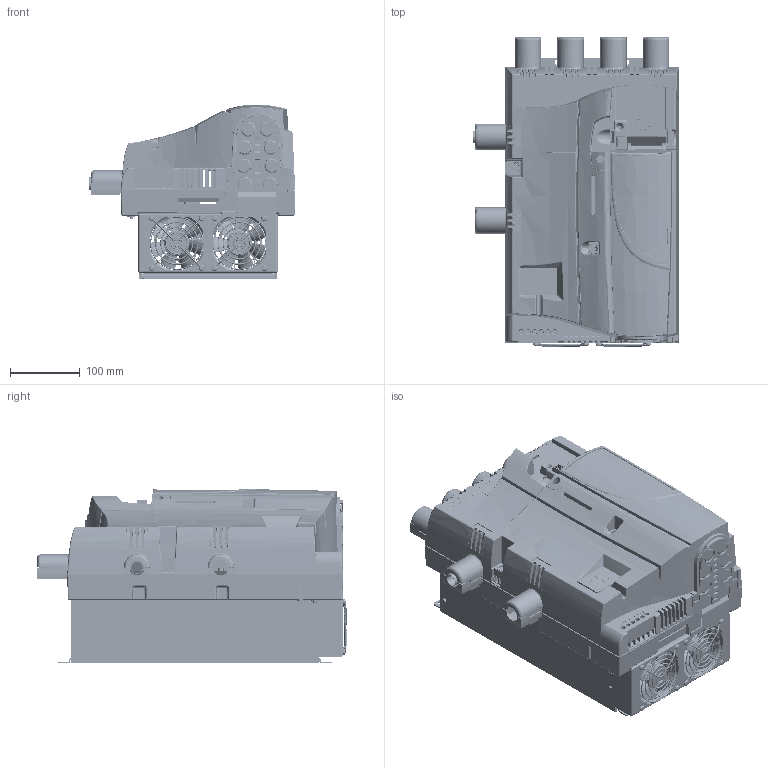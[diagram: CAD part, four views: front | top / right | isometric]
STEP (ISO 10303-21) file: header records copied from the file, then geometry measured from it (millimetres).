
FILE_DESCRIPTION((''),'2;1');
FILE_NAME('STEP_SW0001','2024-09-11T13:19:14',('kholpr01'),(''),'CREO PARAMETRIC BY PTC INC, 2018190','CREO PARAMETRIC BY PTC INC, 2018190','');
FILE_SCHEMA(('AUTOMOTIVE_DESIGN { 1 0 10303 214 1 1 1 1 }'));
Products named in the file (1): STEP_SW0001
Bounding box: 296.05 x 443.73 x 250.5 mm (x, y, z)
Volume: 4241828.2 mm3; surface area: 2315592.8 mm2
Topology: 1 solids, 1 shells, 6543 faces, 17908 edges, 11260 vertices
Faces by surface type: plane 3639, cylinder 1385, bspline 898, torus 272, cone 245, sphere 70, extrusion 34
Entity records: 324290 total; most frequent: CARTESIAN_POINT 122506, ORIENTED_EDGE 35786, DIRECTION 28952, EDGE_CURVE 17893, VERTEX_POINT 11260, VECTOR 11046, LINE 11012, AXIS2_PLACEMENT_3D 8953
